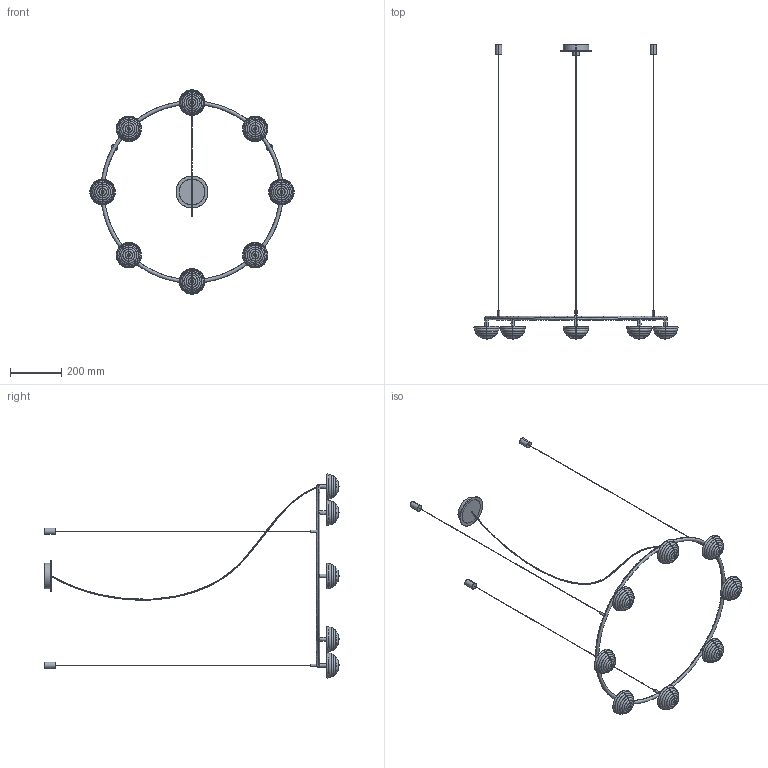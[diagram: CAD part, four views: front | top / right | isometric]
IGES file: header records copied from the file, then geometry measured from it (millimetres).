
Start section: SolidWorks IGES file using analytic representation for surfaces
Global section: file name: C:\Users\Agustin\Desktop\ARNOLD\2024 SEPTIEMBRE\2D\HADO\2D-3D C1331_8\HADO_C1331_8.IGS; native system: SolidWorks 2018; preprocessor: SolidWorks 2018; author: Agustin; date: 240918.101359; units: millimetre
Bounding box: 799.45 x 1152 x 799.49 mm (x, y, z)
Surface area: 413768.7 mm2 (no closed solid volume)
Topology: 0 solids, 0 shells, 289 faces, 4712 edges, 4697 vertices
Faces by surface type: bspline 187, revolution 102
